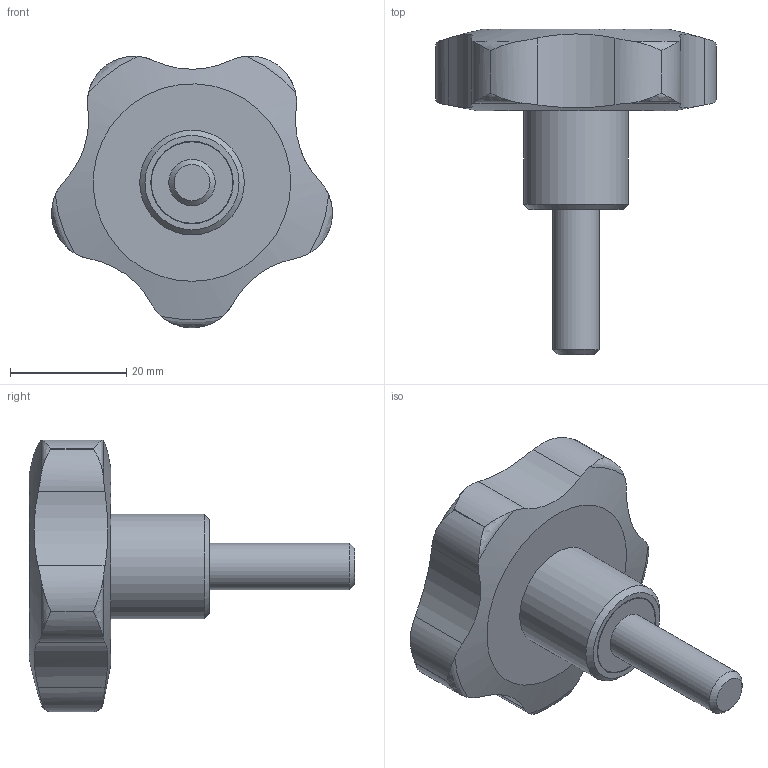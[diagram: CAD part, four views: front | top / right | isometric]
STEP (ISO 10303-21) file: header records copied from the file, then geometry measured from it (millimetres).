
FILE_DESCRIPTION( ( 'STEP AP203' ), '1' );
FILE_NAME( 'C:/Temp/Ganter_Step_05_03_2020/data/2_2/gn_5337_4/gn_5337_4_s/Star knob GN 5337.4-50-M8-25.stp', '2020-03-05T12:09:47', ( 'License CC BY-ND 4.0' ), ( 'CADENAS' ), ' ', 'PARTsolutions', ' ' );
FILE_SCHEMA( ( 'CONFIG_CONTROL_DESIGN' ) );
Length unit declared in the file: millimetre
Products named in the file (1): _Star knob GN 5337.4-50-M8-25
Bounding box: 48.33 x 56 x 46.75 mm (x, y, z)
Volume: 25791.9 mm3; surface area: 6434.5 mm2
Topology: 1 solids, 1 shells, 44 faces, 115 edges, 76 vertices
Faces by surface type: cylinder 24, torus 10, plane 5, cone 3, bspline 1, sphere 1
Full cylindrical faces by diameter (mm): 8 x1, 14 x1, 14.2 x1, 18 x1
Entity records: 1975 total; most frequent: CARTESIAN_POINT 974, ORIENTED_EDGE 204, DIRECTION 172, EDGE_CURVE 102, AXIS2_PLACEMENT_3D 76, VERTEX_POINT 74, EDGE_LOOP 56, B_SPLINE_CURVE_WITH_KNOTS 50
